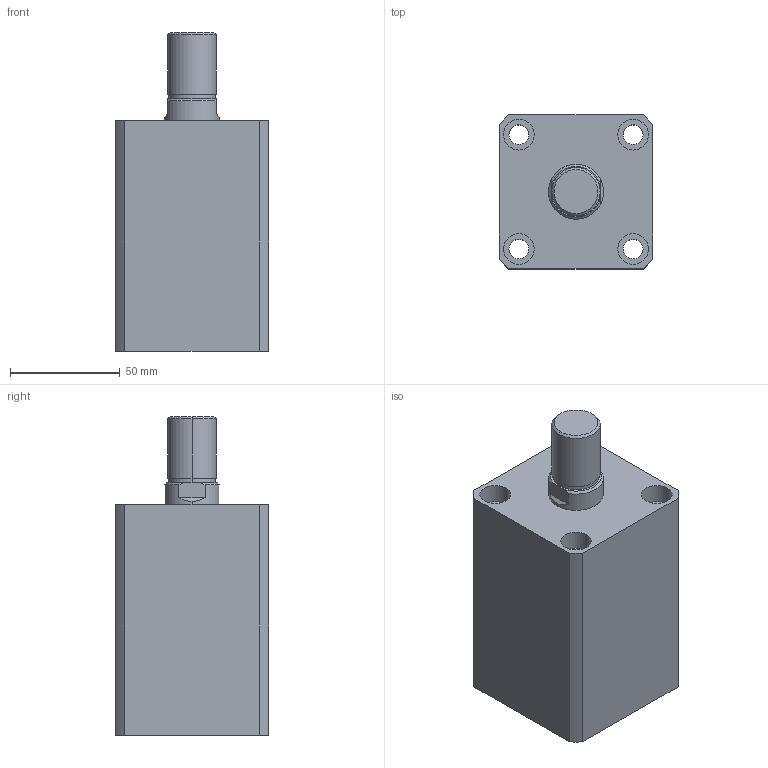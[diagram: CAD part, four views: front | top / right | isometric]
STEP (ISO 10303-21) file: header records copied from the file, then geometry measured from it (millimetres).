
FILE_DESCRIPTION (( 'STEP AP203' ), '1' );
FILE_NAME ('HTB-SDMB40-50W.STEP', '2019-10-09T01:55:20', ( '微软用户' ), ( '微软中国' ), 'SwSTEP 2.0', 'SolidWorks 2012', '' );
FILE_SCHEMA (( 'CONFIG_CONTROL_DESIGN' ));
Length unit declared in the file: millimetre
Products named in the file (3): HTB-SDMB40-50W; HTB-SDMB40-50W活塞杆; HTB-SDMB40-50掛极
Assembly tree (2 placements, depth 2):
  HTB-SDMB40-50W
    HTB-SDMB40-50掛极
    HTB-SDMB40-50W活塞杆
Bounding box: 70 x 70 x 145 mm (x, y, z)
Volume: 454451.4 mm3; surface area: 76814.6 mm2
Topology: 2 solids, 2 shells, 141 faces, 337 edges, 222 vertices
Faces by surface type: plane 67, cylinder 48, bspline 16, torus 6, cone 4
Entity records: 5180 total; most frequent: CARTESIAN_POINT 1597, ORIENTED_EDGE 674, DIRECTION 669, EDGE_CURVE 337, AXIS2_PLACEMENT_3D 242, VERTEX_POINT 222, VECTOR 185, LINE 185
